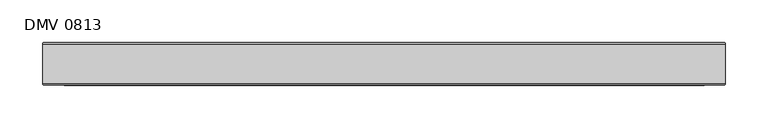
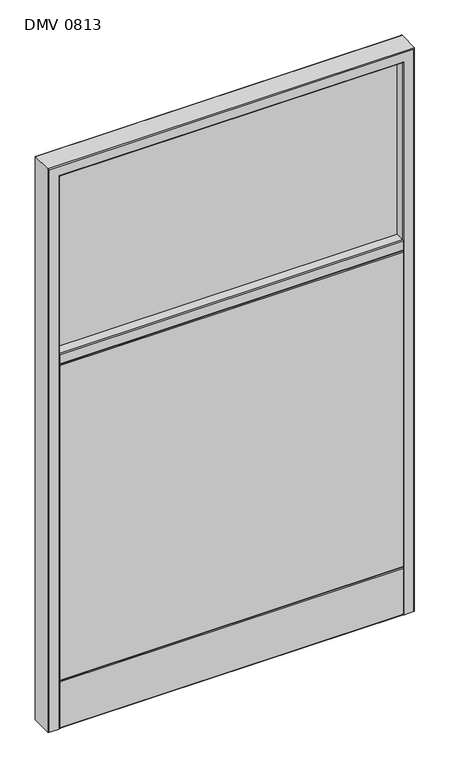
"""IFC4 building model written with IfcOpenShell, lengths in millimetres: furniture geometry, Mobiliário_MobiliáriodeEscritório_LinhaDivision_PainelDivisionMisto-VidroeMelamina_Marelli : DMV 0813."""

from ifc_helpers import new_model, si_unit, point, frame, frame_2d, origin, place, context, project, spatial, polyline, circle_curve, ellipse_curve, trimmed, segment, composite_curve, outline, extrude, source, transform, mapped, element, save
from ifc_brep_helpers import plane_surface, cylinder_surface, advanced_brep


def dmv_0813_80cdf125(model_context):
    return source(origin(), model_context, "Body", "SolidModel", [
        advanced_brep(
        [(777.0, 50.0, 0.0), (798.0, 50.0, 0.0), (800.0, 48.0, 0.0), (800.0, 2.0, 0.0), (798.0, 0.0, 0.0), (777.0, 0.0, 0.0), (775.0, 2.0, 0.0), (775.0, 48.0, 0.0), (23.0, 50.0, 0.0), (25.0, 48.0, 0.0), (25.0, 2.0, 0.0), (23.0, 0.0, 0.0), (2.0, 0.0, 0.0), (0.0, 2.0, 0.0), (0.0, 48.0, 0.0), (2.0, 50.0, 0.0), (777.0, 50.0, 1277.0), (23.0, 50.0, 1277.0), (2.0, 50.0, 1298.0), (798.0, 50.0, 1298.0), (800.0, 48.0, 1300.0), (800.0, 2.0, 1300.0), (798.0, 0.0, 1298.0), (2.0, 0.0, 1298.0), (23.0, 0.0, 1277.0), (777.0, 0.0, 1277.0), (775.0, 2.0, 1275.0), (775.0, 48.0, 1275.0), (0.0, 48.0, 1300.0), (0.0, 2.0, 1300.0), (25.0, 2.0, 1275.0), (25.0, 48.0, 1275.0)],
        [
            (0, 1),
            (1, 2, circle_curve(frame((798.0, 48.0, 0.0), z_axis=(0.0, 0.0, -1.0), x_axis=(0.0, -1.0, 0.0)), 2.0)),
            (2, 3),
            (3, 4, circle_curve(frame((798.0, 2.0, 0.0), z_axis=(0.0, 0.0, -1.0), x_axis=(0.0, -1.0, 0.0)), 2.0)),
            (4, 5),
            (5, 6, circle_curve(frame((777.0, 2.0, 0.0), z_axis=(0.0, 0.0, -1.0), x_axis=(0.0, -1.0, 0.0)), 2.0)),
            (6, 7),
            (7, 0, circle_curve(frame((777.0, 48.0, 0.0), z_axis=(0.0, 0.0, -1.0), x_axis=(0.0, -1.0, 0.0)), 2.0)),
            (8, 9, circle_curve(frame((23.0, 48.0, 0.0), z_axis=(0.0, 0.0, -1.0), x_axis=(0.0, -1.0, 0.0)), 2.0)),
            (9, 10),
            (10, 11, circle_curve(frame((23.0, 2.0, 0.0), z_axis=(0.0, 0.0, -1.0), x_axis=(0.0, -1.0, 0.0)), 2.0)),
            (11, 12),
            (12, 13, circle_curve(frame((2.0, 2.0, 0.0), z_axis=(0.0, 0.0, -1.0), x_axis=(0.0, -1.0, 0.0)), 2.0)),
            (13, 14),
            (14, 15, circle_curve(frame((2.0, 48.0, 0.0), z_axis=(0.0, 0.0, -1.0), x_axis=(0.0, -1.0, 0.0)), 2.0)),
            (15, 8),
            (0, 16),
            (16, 17),
            (17, 8),
            (15, 18),
            (18, 19),
            (19, 1),
            (19, 20, ellipse_curve(frame((798.0, 48.0, 1298.0), z_axis=(0.7071067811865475, 0.0, -0.7071067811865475), x_axis=(-0.7071067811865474, 0.0, -0.7071067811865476)), 2.8284271, 2.0)),
            (20, 2),
            (20, 21),
            (21, 3),
            (21, 22, ellipse_curve(frame((798.0, 2.0, 1298.0), z_axis=(0.7071067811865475, 0.0, -0.7071067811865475), x_axis=(-0.7071067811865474, 0.0, -0.7071067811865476)), 2.8284271, 2.0)),
            (22, 4),
            (22, 23),
            (23, 12),
            (11, 24),
            (24, 25),
            (25, 5),
            (25, 26, ellipse_curve(frame((777.0, 2.0, 1277.0), z_axis=(0.7071067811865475, 0.0, -0.7071067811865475), x_axis=(-0.7071067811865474, 0.0, -0.7071067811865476)), 2.8284271, 2.0)),
            (26, 6),
            (26, 27),
            (27, 7),
            (27, 16, ellipse_curve(frame((777.0, 48.0, 1277.0), z_axis=(0.7071067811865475, 0.0, -0.7071067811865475), x_axis=(-0.7071067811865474, 0.0, -0.7071067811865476)), 2.8284271, 2.0)),
            (18, 28, ellipse_curve(frame((2.0, 48.0, 1298.0), z_axis=(0.7071067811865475, 0.0, 0.7071067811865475), x_axis=(0.7071067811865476, 0.0, -0.7071067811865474)), 2.8284271, 2.0)),
            (28, 20),
            (28, 29),
            (29, 21),
            (29, 23, ellipse_curve(frame((2.0, 2.0, 1298.0), z_axis=(0.7071067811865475, 0.0, 0.7071067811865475), x_axis=(0.7071067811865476, 0.0, -0.7071067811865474)), 2.8284271, 2.0)),
            (24, 30, ellipse_curve(frame((23.0, 2.0, 1277.0), z_axis=(0.7071067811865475, 0.0, 0.7071067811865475), x_axis=(0.7071067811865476, 0.0, -0.7071067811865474)), 2.8284271, 2.0)),
            (30, 26),
            (30, 31),
            (31, 27),
            (31, 17, ellipse_curve(frame((23.0, 48.0, 1277.0), z_axis=(0.7071067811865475, 0.0, 0.7071067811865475), x_axis=(0.7071067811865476, 0.0, -0.7071067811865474)), 2.8284271, 2.0)),
            (14, 28),
            (13, 29),
            (10, 30),
            (9, 31),
        ],
        [
            plane_surface(frame((800.0, 0.0, 0.0), z_axis=(0.0, 0.0, -1.0), x_axis=(0.0, -1.0, 0.0))),
            plane_surface(frame((0.0, 0.0, 0.0), z_axis=(0.0, 0.0, -1.0), x_axis=(0.0, -1.0, 0.0))),
            plane_surface(frame((777.0, 50.0, 0.0), z_axis=(0.0, 1.0, 0.0), x_axis=(0.0, 0.0, 1.0))),
            cylinder_surface(frame((798.0, 48.0, 0.0), z_axis=(0.0, 0.0, -1.0), x_axis=(0.0, -1.0, 0.0)), 2.0),
            plane_surface(frame((800.0, 48.0, 0.0), z_axis=(1.0, 0.0, 0.0), x_axis=(0.0, 0.0, 1.0))),
            cylinder_surface(frame((798.0, 2.0, 0.0), z_axis=(0.0, 0.0, -1.0), x_axis=(0.0, -1.0, 0.0)), 2.0),
            plane_surface(frame((798.0, 0.0, 0.0), z_axis=(0.0, -1.0, 0.0), x_axis=(0.0, 0.0, 1.0))),
            cylinder_surface(frame((777.0, 2.0, 0.0), z_axis=(0.0, 0.0, -1.0), x_axis=(0.0, -1.0, 0.0)), 2.0),
            plane_surface(frame((775.0, 2.0, 0.0), z_axis=(-1.0, 0.0, 0.0), x_axis=(0.0, 0.0, 1.0))),
            cylinder_surface(frame((777.0, 48.0, 0.0), z_axis=(0.0, 0.0, -1.0), x_axis=(0.0, -1.0, 0.0)), 2.0),
            cylinder_surface(frame((800.0, 48.0, 1298.0), z_axis=(1.0, 0.0, 0.0), x_axis=(0.0, -1.0, 0.0)), 2.0),
            plane_surface(frame((800.0, 48.0, 1300.0), z_axis=(0.0, 0.0, 1.0), x_axis=(-1.0, 0.0, 0.0))),
            cylinder_surface(frame((800.0, 2.0, 1298.0), z_axis=(1.0, 0.0, 0.0), x_axis=(0.0, -1.0, 0.0)), 2.0),
            cylinder_surface(frame((800.0, 2.0, 1277.0), z_axis=(1.0, 0.0, 0.0), x_axis=(0.0, -1.0, 0.0)), 2.0),
            plane_surface(frame((775.0, 2.0, 1275.0), z_axis=(0.0, 0.0, -1.0), x_axis=(-1.0, 0.0, 0.0))),
            cylinder_surface(frame((800.0, 48.0, 1277.0), z_axis=(1.0, 0.0, 0.0), x_axis=(0.0, -1.0, 0.0)), 2.0),
            cylinder_surface(frame((2.0, 48.0, 1300.0), z_axis=(0.0, 0.0, 1.0), x_axis=(0.0, -1.0, 0.0)), 2.0),
            plane_surface(frame((0.0, 48.0, 1300.0), z_axis=(-1.0, 0.0, 0.0), x_axis=(0.0, 0.0, -1.0))),
            cylinder_surface(frame((2.0, 2.0, 1300.0), z_axis=(0.0, 0.0, 1.0), x_axis=(0.0, -1.0, 0.0)), 2.0),
            cylinder_surface(frame((23.0, 2.0, 1300.0), z_axis=(0.0, 0.0, 1.0), x_axis=(0.0, -1.0, 0.0)), 2.0),
            plane_surface(frame((25.0, 2.0, 1275.0), z_axis=(1.0, 0.0, 0.0), x_axis=(0.0, 0.0, -1.0))),
            cylinder_surface(frame((23.0, 48.0, 1300.0), z_axis=(0.0, 0.0, 1.0), x_axis=(0.0, -1.0, 0.0)), 2.0),
        ],
        [
            (0, [[1, 2, 3, 4, 5, 6, 7, 8]]),
            (1, [[9, 10, 11, 12, 13, 14, 15, 16]]),
            (2, [[-1, 17, 18, 19, -16, 20, 21, 22]]),
            (3, [[-2, -22, 23, 24]]),
            (4, [[-3, -24, 25, 26]]),
            (5, [[-4, -26, 27, 28]]),
            (6, [[-5, -28, 29, 30, -12, 31, 32, 33]]),
            (7, [[-6, -33, 34, 35]]),
            (8, [[-7, -35, 36, 37]]),
            (9, [[-8, -37, 38, -17]]),
            (10, [[-23, -21, 39, 40]]),
            (11, [[-25, -40, 41, 42]]),
            (12, [[-27, -42, 43, -29]]),
            (13, [[-34, -32, 44, 45]]),
            (14, [[-36, -45, 46, 47]]),
            (15, [[-38, -47, 48, -18]]),
            (16, [[-39, -20, -15, 49]]),
            (17, [[-41, -49, -14, 50]]),
            (18, [[-43, -50, -13, -30]]),
            (19, [[-44, -31, -11, 51]]),
            (20, [[-46, -51, -10, 52]]),
            (21, [[-48, -52, -9, -19]]),
        ],
    ),
        extrude(outline(composite_curve([segment(trimmed(circle_curve(frame_2d((48.0, 108.0)), 2.0), [point((48.0, 110.0))], [point((50.0, 108.0))], False, "CARTESIAN"), True, "CONTINUOUS"), segment(polyline([(50.0, 108.0), (50.0, 2.0)]), True, "CONTINUOUS"), segment(trimmed(circle_curve(frame_2d((48.0, 2.0)), 2.0), [point((50.0, 2.0))], [point((48.0, 0.0))], False, "CARTESIAN"), True, "CONTINUOUS"), segment(polyline([(48.0, 0.0), (2.0, 0.0)]), True, "CONTINUOUS"), segment(trimmed(circle_curve(frame_2d((2.0, 2.0)), 2.0), [point((2.0, 0.0))], [point((0.0, 2.0))], False, "CARTESIAN"), True, "CONTINUOUS"), segment(polyline([(0.0, 2.0), (0.0, 108.0)]), True, "CONTINUOUS"), segment(trimmed(circle_curve(frame_2d((2.0, 108.0)), 2.0), [point((0.0, 108.0))], [point((2.0, 110.0))], False, "CARTESIAN"), True, "CONTINUOUS"), segment(polyline([(2.0, 110.0), (48.0, 110.0)]), True, "CONTINUOUS")], self_intersect=False)), frame((25.0, 0.0, 0.0), z_axis=(1.0, 0.0, 0.0), x_axis=(0.0, 1.0, 0.0)), (0.0, 0.0, 1.0), 750.0),
        extrude(outline(composite_curve([segment(trimmed(circle_curve(frame_2d((48.0, 838.0)), 2.0), [point((48.0, 840.0))], [point((50.0, 838.0))], False, "CARTESIAN"), True, "CONTINUOUS"), segment(polyline([(50.0, 838.0), (50.0, 112.0)]), True, "CONTINUOUS"), segment(trimmed(circle_curve(frame_2d((48.0, 112.0)), 2.0), [point((50.0, 112.0))], [point((48.0, 110.0))], False, "CARTESIAN"), True, "CONTINUOUS"), segment(polyline([(48.0, 110.0), (2.0, 110.0)]), True, "CONTINUOUS"), segment(trimmed(circle_curve(frame_2d((2.0, 112.0)), 2.0), [point((2.0, 110.0))], [point((0.0, 112.0))], False, "CARTESIAN"), True, "CONTINUOUS"), segment(polyline([(0.0, 112.0), (0.0, 838.0)]), True, "CONTINUOUS"), segment(trimmed(circle_curve(frame_2d((2.0, 838.0)), 2.0), [point((0.0, 838.0))], [point((2.0, 840.0))], False, "CARTESIAN"), True, "CONTINUOUS"), segment(polyline([(2.0, 840.0), (48.0, 840.0)]), True, "CONTINUOUS")], self_intersect=False)), frame((25.0, 0.0, 0.0), z_axis=(1.0, 0.0, 0.0), x_axis=(0.0, 1.0, 0.0)), (0.0, 0.0, 1.0), 750.0),
        extrude(outline(composite_curve([segment(polyline([(48.0, 840.0), (2.0, 840.0)]), True, "CONTINUOUS"), segment(trimmed(circle_curve(frame_2d((2.0, 842.0)), 2.0), [point((2.0, 840.0))], [point((0.0, 842.0))], False, "CARTESIAN"), True, "CONTINUOUS"), segment(polyline([(0.0, 842.0), (0.0, 863.0)]), True, "CONTINUOUS"), segment(trimmed(circle_curve(frame_2d((2.0, 863.0)), 2.0), [point((0.0, 863.0))], [point((2.0, 865.0))], False, "CARTESIAN"), True, "CONTINUOUS"), segment(polyline([(2.0, 865.0), (48.0, 865.0)]), True, "CONTINUOUS"), segment(trimmed(circle_curve(frame_2d((48.0, 863.0)), 2.0), [point((48.0, 865.0))], [point((50.0, 863.0))], False, "CARTESIAN"), True, "CONTINUOUS"), segment(polyline([(50.0, 863.0), (50.0, 842.0)]), True, "CONTINUOUS"), segment(trimmed(circle_curve(frame_2d((48.0, 842.0)), 2.0), [point((50.0, 842.0))], [point((48.0, 840.0))], False, "CARTESIAN"), True, "CONTINUOUS")], self_intersect=False)), frame((25.0, 0.0, 0.0), z_axis=(1.0, 0.0, 0.0), x_axis=(0.0, 1.0, 0.0)), (0.0, 0.0, 1.0), 750.0),
        extrude(outline(polyline([(775.0, 26.9683951), (775.0, 22.9683951), (25.0, 22.9683951), (25.0, 26.9683951), (775.0, 26.9683951)])), frame((0.0, 0.0, 865.0), z_axis=(0.0, 0.0, 1.0), x_axis=(1.0, 0.0, 0.0)), (0.0, 0.0, 1.0), 410.0),
    ])


if __name__ == "__main__":
    model = new_model("IFC4")
    model_context = context("Model", 3, world=origin())
    ifc_project = project(units=[si_unit("LENGTHUNIT", "METRE", prefix="MILLI")], contexts=[model_context])
    site = spatial("IfcSite", under=ifc_project)
    building = spatial("IfcBuilding", under=site)
    placement = place(None, origin())
    dmv_0813_shape = dmv_0813_80cdf125(model_context)
    element("IfcFurniture", 1, ObjectType="Mobiliário_MobiliáriodeEscritório_LinhaDivision_PainelDivisionMisto-VidroeMelamina_Marelli : DMV 0813", at=placement, inside=building, context=model_context, shape_type="MappedRepresentation", body=[
        mapped(dmv_0813_shape, transform((0.0, 0.0, 0.0), x_axis=(1.0, 0.0, 0.0), y_axis=(0.0, 1.0, 0.0), z_axis=(0.0, 0.0, 1.0))),
    ])
    save(model, "model.ifc")
